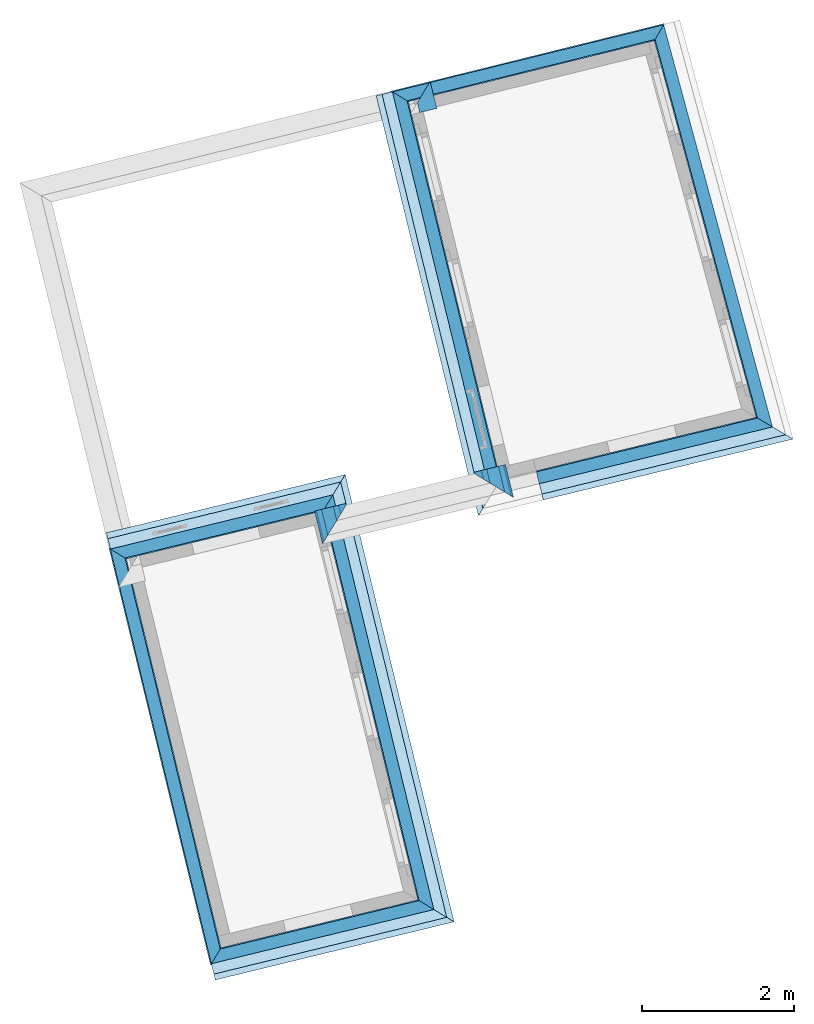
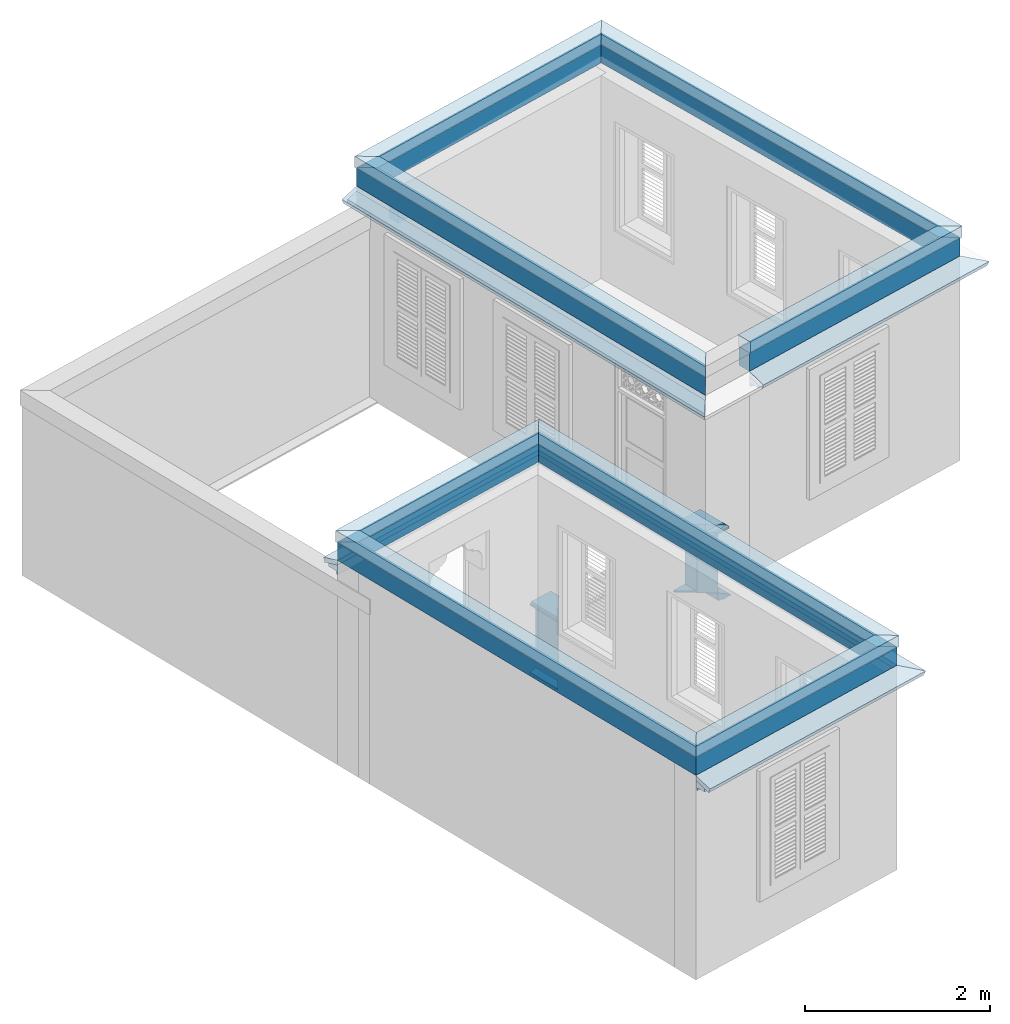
# One storey, part 6 of 7: 26 roofs, 7 walls.
"""IFC4 building model written with IfcOpenShell, lengths in metres."""

import ifcopenshell
import ifcopenshell.guid

model = None  # the IFC model being written
_history = None  # IfcOwnerHistory: only IFC2X3 demands one
_inside = {}  # id of a spatial element -> (the spatial element, [elements in it])
_under = {}  # id of a project, library or spatial element -> (it, [spatial elements below it])
_declared = {}  # id of a project -> (the project, [libraries it declares])
_typed = {}  # id of a type object -> (the type object, [elements of that type])
_made_of = {}  # id of a material, layer set ... -> (it, [elements and type objects made of it])


def new_model(schema):
    """Start an empty IFC model of exactly this schema.

    Asked for "IFC4X3", IfcOpenShell would pick the latest addendum, in which some entities
    have other attributes; the version numbers below select the first issue.
    IFC2X3 requires an IfcOwnerHistory on every rooted entity: one is made here for all.
    """
    global model, _history
    if schema == "IFC4X3":
        model = ifcopenshell.file(schema_version=(4, 3, 0, 0))
    else:
        model = ifcopenshell.file(schema=schema)
    _inside.clear()
    _under.clear()
    _declared.clear()
    _typed.clear()
    _made_of.clear()
    _history = None
    if model.schema == "IFC2X3":
        org = make("IfcOrganization", Name="unknown")
        user = make(
            "IfcPersonAndOrganization",
            ThePerson=make("IfcPerson", FamilyName="unknown"),
            TheOrganization=org,
        )
        app = make(
            "IfcApplication",
            ApplicationDeveloper=org,
            Version="unknown",
            ApplicationFullName="unknown",
            ApplicationIdentifier="unknown",
        )
        _history = make(
            "IfcOwnerHistory",
            OwningUser=user,
            OwningApplication=app,
            ChangeAction="ADDED",
            CreationDate=0,
        )
    return model


def make(cls, **values):
    """One entity of the class cls with the attributes given. An attribute that is None is left unset."""
    return model.create_entity(
        cls, **{name: value for name, value in values.items() if value is not None}
    )


def rooted(cls, **values):
    """An entity with a GlobalId (a new one), such as an element, a storey or a relation."""
    return make(cls, GlobalId=ifcopenshell.guid.new(), OwnerHistory=_history, **values)


def si_unit(unit_type, name, prefix=None):
    """IfcSIUnit, for example si_unit("LENGTHUNIT", "METRE", prefix="MILLI")."""
    return make("IfcSIUnit", UnitType=unit_type, Prefix=prefix, Name=name)


def assignment(units):
    """IfcUnitAssignment: the units of a project."""
    return None if units is None else make("IfcUnitAssignment", Units=units)


def point(xyz):
    """IfcCartesianPoint."""
    return None if xyz is None else make("IfcCartesianPoint", Coordinates=xyz)


def direction(xyz):
    """IfcDirection."""
    return None if xyz is None else make("IfcDirection", DirectionRatios=xyz)


def frame(location, z_axis=None, x_axis=None):
    """IfcAxis2Placement3D, a coordinate frame: its origin and axes. An axis left out is left unset."""
    return make(
        "IfcAxis2Placement3D",
        Location=point(location),
        Axis=direction(z_axis),
        RefDirection=direction(x_axis),
    )


def origin_with_axes():
    """The frame at (0, 0, 0) with the z axis (0, 0, 1) and the x axis (1, 0, 0) written out."""
    return frame((0.0, 0.0, 0.0), z_axis=(0.0, 0.0, 1.0), x_axis=(1.0, 0.0, 0.0))


def place(relative_to, where):
    """IfcLocalPlacement: puts the frame where relative to a parent placement (None: the world)."""
    return make(
        "IfcLocalPlacement", PlacementRelTo=relative_to, RelativePlacement=where
    )


def context(
    kind, dimensions, precision=None, world=None, true_north=None, identifier=None
):
    """IfcGeometricRepresentationContext, for example the 3D "Model" context."""
    return make(
        "IfcGeometricRepresentationContext",
        ContextIdentifier=identifier,
        ContextType=kind,
        CoordinateSpaceDimension=dimensions,
        Precision=precision,
        WorldCoordinateSystem=world,
        TrueNorth=true_north,
    )


def subcontext(parent, identifier, kind, view, scale=None):
    """IfcGeometricRepresentationSubContext, for example "Body" below "Model"."""
    return make(
        "IfcGeometricRepresentationSubContext",
        ContextIdentifier=identifier,
        ContextType=kind,
        ParentContext=parent,
        TargetScale=scale,
        TargetView=view,
    )


def project(units=None, contexts=None):
    """IfcProject with its units and contexts."""
    return rooted(
        "IfcProject",
        Name="project",
        RepresentationContexts=contexts,
        UnitsInContext=assignment(units),
    )


def spatial(cls, under=None, at=None, **own):
    """A site, building, storey or space (cls), placed at a placement, below another one or the project."""
    s = rooted(cls, ObjectPlacement=at, **own)
    if under is not None:
        _under.setdefault(under.id(), (under, []))[1].append(s)
    return s


def polyline(points):
    """IfcPolyline through the points."""
    return make("IfcPolyline", Points=[point(p) for p in points])


def outline(outer, holes=None, kind="AREA"):
    """IfcArbitraryClosedProfileDef: a profile drawn as a closed curve; with holes, ...WithVoids."""
    if holes is None:
        return make("IfcArbitraryClosedProfileDef", ProfileType=kind, OuterCurve=outer)
    return make(
        "IfcArbitraryProfileDefWithVoids",
        ProfileType=kind,
        OuterCurve=outer,
        InnerCurves=holes,
    )


def extrude(swept, where, along, depth):
    """IfcExtrudedAreaSolid: the profile swept, set in the frame where, extruded along a direction by depth."""
    return make(
        "IfcExtrudedAreaSolid",
        SweptArea=swept,
        Position=where,
        ExtrudedDirection=direction(along),
        Depth=depth,
    )


def clip(a, b, op="DIFFERENCE"):
    """IfcBooleanClippingResult: the solid a cut by the half space b."""
    return make(
        "IfcBooleanClippingResult", Operator=op, FirstOperand=a, SecondOperand=b
    )


def halfspace(plane, agree):
    """IfcHalfSpaceSolid: all space on one side of the plane z = 0 of the frame plane."""
    return make(
        "IfcHalfSpaceSolid",
        BaseSurface=make("IfcPlane", Position=plane),
        AgreementFlag=agree,
    )


def shape(context_of_items, identifier, shape_type, items):
    """IfcShapeRepresentation: the items that make up one representation, for example the "Body"."""
    return make(
        "IfcShapeRepresentation",
        ContextOfItems=context_of_items,
        RepresentationIdentifier=identifier,
        RepresentationType=shape_type,
        Items=items,
    )


def material_profile(
    of_material, cross_section, Name=None, Category=None, Priority=None
):
    """IfcMaterialProfile: a cross section and its material."""
    return make(
        "IfcMaterialProfile",
        Name=Name,
        Material=of_material,
        Profile=cross_section,
        Priority=Priority,
        Category=Category,
    )


def profile_set(profiles, Name=None, composite=None):
    """IfcMaterialProfileSet."""
    return make(
        "IfcMaterialProfileSet",
        Name=Name,
        MaterialProfiles=profiles,
        CompositeProfile=composite,
    )


def profile_usage(for_profile_set, cardinal=None, extent=None):
    """IfcMaterialProfileSetUsage: how a profile set lies along its element."""
    return make(
        "IfcMaterialProfileSetUsage",
        ForProfileSet=for_profile_set,
        CardinalPoint=cardinal,
        ReferenceExtent=extent,
    )


def made_of(thing, what):
    """Note that an element or type object is made of a material, layer set ...; save() writes the relation."""
    if what is not None:
        _made_of.setdefault(what.id(), (what, []))[1].append(thing)
    return thing


def type_object(cls, material=None, **own):
    """A type object (cls), such as IfcWallType, which elements share."""
    return made_of(rooted(cls, **own), material)


def element(
    cls,
    number,
    at=None,
    inside=None,
    cuts=None,
    type_object=None,
    material=None,
    context=None,
    identifier="Body",
    shape_type=None,
    held_by="IfcProductDefinitionShape",
    body=None,
    shapes=None,
    **own,
):
    """One element of the class cls, such as IfcWall. Its Tag is "e" and its number.

    at: its placement. inside: the storey or other place that contains it. cuts: it is an
    opening in that element (IfcRelVoidsElement). A single representation is given by context,
    identifier, shape_type and body (its items); several are given by shapes. held_by: the class
    of the entity that holds the representations. save() writes the other relations.
    """
    e = rooted(cls, Tag="e%d" % number, ObjectPlacement=at, **own)
    if body is not None:
        shapes = [shape(context, identifier, shape_type, body)]
    if shapes is not None:
        e.Representation = make(held_by, Representations=shapes)
    if inside is not None:
        _inside.setdefault(inside.id(), (inside, []))[1].append(e)
    if cuts is not None:
        rooted(
            "IfcRelVoidsElement", RelatingBuildingElement=cuts, RelatedOpeningElement=e
        )
    if type_object is not None:
        _typed.setdefault(type_object.id(), (type_object, []))[1].append(e)
    return made_of(e, material)


def aggregate(whole, parts):
    """IfcRelAggregates: a whole, such as a stair, and the parts it consists of."""
    return rooted("IfcRelAggregates", RelatingObject=whole, RelatedObjects=parts)


def save(model, path):
    """Write the relations noted so far, then the file.

    IfcRelAggregates (storeys below a building ...), IfcRelContainedInSpatialStructure (elements
    in a storey), IfcRelDefinesByType, IfcRelAssociatesMaterial and IfcRelDeclares: one each for
    every whole, place, type object, material and project.
    """
    for whole, parts in _under.values():
        aggregate(whole, parts)
    for where, things in _inside.values():
        rooted(
            "IfcRelContainedInSpatialStructure",
            RelatedElements=things,
            RelatingStructure=where,
        )
    for kind, things in _typed.values():
        rooted("IfcRelDefinesByType", RelatedObjects=things, RelatingType=kind)
    for what, things in _made_of.values():
        rooted("IfcRelAssociatesMaterial", RelatedObjects=things, RelatingMaterial=what)
    for by, libraries in _declared.values():
        rooted("IfcRelDeclares", RelatingContext=by, RelatedDefinitions=libraries)
    model.write(path)


model = new_model("IFC4")

# Units and contexts
model_context = context("Model", 3, world=origin_with_axes())
body_context = subcontext(model_context, "Body", "Model", "MODEL_VIEW")
ifc_project = project(units=[si_unit("PLANEANGLEUNIT", "RADIAN"), si_unit("MASSUNIT", "GRAM", prefix="KILO"), si_unit("FORCEUNIT", "NEWTON", prefix="KILO"), si_unit("LENGTHUNIT", "METRE"), si_unit("AREAUNIT", "SQUARE_METRE"), si_unit("VOLUMEUNIT", "CUBIC_METRE")], contexts=[model_context, model_context])

# Site, building, storey
site_placement = place(None, origin_with_axes())
site = spatial("IfcSite", under=ifc_project, at=site_placement, Name="Site plot-4", CompositionType="ELEMENT")
building_placement = place(None, origin_with_axes())
building = spatial("IfcBuilding", under=site, at=building_placement, Name="Building plot-4", CompositionType="ELEMENT")
storey_placement = place(None, frame((0.0, 0.0, 5.4), z_axis=(0.0, 0.0, 1.0), x_axis=(1.0, 0.0, 0.0)))
storey = spatial("IfcBuildingStorey", under=building, at=storey_placement, Name="plot-4 2", CompositionType="ELEMENT", Elevation=5.4)

# Walls
ifc_material_profile_1 = material_profile(None, outline(polyline([(0.265, 2.245), (0.265, 2.445), (0.035, 2.445), (0.035, 2.245), (0.265, 2.245)])))
ifc_profile_set_1 = profile_set([ifc_material_profile_1])
ifc_profile_usage_1 = profile_usage(ifc_profile_set_1)
wall_type_1 = type_object("IfcWallType", Name="parapet party_1", PredefinedType="PARAPET", material=ifc_profile_set_1)
wall_1_placement = place(storey_placement, frame((21.9928642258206, 21.4109044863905, 0.0), z_axis=(0.240250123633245, -0.970711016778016, 0.0), x_axis=(0.970711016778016, 0.240250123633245, 0.0)))
element("IfcWall", 1, at=wall_1_placement, inside=storey, type_object=wall_type_1, material=ifc_profile_usage_1, Name="parapet party_1", context=body_context, shape_type="Clipping", body=[
    clip(clip(extrude(outline(polyline([(0.265, 2.245), (0.265, 2.445), (0.035, 2.445), (0.035, 2.245), (0.265, 2.245)])), origin_with_axes(), (0.0, 0.0, 1.0), 2.1), halfspace(frame((0.0, 0.0, 1.1), z_axis=(-9.49410759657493e-16, 0.0, -1.0), x_axis=(0.0, 1.0, 0.0)), True)), halfspace(frame((0.0, 0.0, 1.0), z_axis=(-0.70710678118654, 0.0, -0.707106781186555), x_axis=(0.0, 1.0, 0.0)), False)),
])
ifc_material_profile_2 = material_profile(None, outline(polyline([(0.25, 0.0), (0.25, 0.795), (0.09, 0.795), (0.09, 0.02), (-0.08, 0.02), (-0.08, 0.0), (0.25, 0.0)])))
ifc_profile_set_2 = profile_set([ifc_material_profile_2])
ifc_profile_usage_2 = profile_usage(ifc_profile_set_2)
wall_type_2 = type_object("IfcWallType", Name="parapet internal_0", PredefinedType="PARAPET", material=ifc_profile_set_2)
wall_2_placement = place(storey_placement, frame((21.5022646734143, 14.1268234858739, 0.0), z_axis=(-0.236608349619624, 0.97160510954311, 0.0), x_axis=(-0.97160510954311, -0.236608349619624, 0.0)))
element("IfcWall", 2, at=wall_2_placement, inside=storey, type_object=wall_type_2, material=ifc_profile_usage_2, Name="parapet internal_0", context=body_context, shape_type="Clipping", body=[
    clip(clip(extrude(outline(polyline([(0.25, 0.0), (0.25, 0.795), (0.09, 0.795), (0.09, 0.02), (-0.08, 0.02), (-0.08, 0.0), (0.25, 0.0)])), origin_with_axes(), (0.0, 0.0, 1.0), 2.1), halfspace(frame((0.0, 0.0, 1.1), z_axis=(-7.27366154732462e-16, 0.0, -1.0), x_axis=(0.0, 1.0, 0.0)), True)), halfspace(frame((0.0, 0.0, 1.0), z_axis=(-0.707106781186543, 0.0, -0.707106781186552), x_axis=(0.0, 1.0, 0.0)), False)),
])
ifc_profile_usage_3 = profile_usage(ifc_profile_set_2)
wall_3_placement = place(storey_placement, frame((22.8455035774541, 16.6153051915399, 0.0), z_axis=(0.236608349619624, -0.97160510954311, 0.0), x_axis=(0.97160510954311, 0.236608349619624, 0.0)))
element("IfcWall", 3, at=wall_3_placement, inside=storey, type_object=wall_type_2, material=ifc_profile_usage_3, Name="parapet internal_0", context=body_context, shape_type="Clipping", body=[
    clip(clip(extrude(outline(polyline([(0.25, 0.0), (0.25, 0.795), (0.09, 0.795), (0.09, 0.02), (-0.08, 0.02), (-0.08, 0.0), (0.25, 0.0)])), origin_with_axes(), (0.0, 0.0, 1.0), 2.1), halfspace(frame((0.0, 0.0, 1.1), z_axis=(0.707106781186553, 0.0, -0.707106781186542), x_axis=(0.0, 1.0, 0.0)), True)), halfspace(frame((0.0, 0.0, 1.0), z_axis=(-7.27366154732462e-16, 0.0, -1.0), x_axis=(0.0, 1.0, 0.0)), False)),
])
ifc_material_profile_3 = material_profile(None, outline(polyline([(0.265, 0.795), (0.268, 0.807), (0.274, 0.816), (0.283, 0.822), (0.295, 0.825), (0.295, 0.84), (0.305, 0.84), (0.317, 0.842), (0.326, 0.849), (0.333, 0.858), (0.335, 0.87), (0.333, 0.882), (0.326, 0.891), (0.317, 0.898), (0.305, 0.9), (0.035, 0.9), (0.023, 0.898), (0.014, 0.891), (0.007, 0.882), (0.005, 0.87), (0.007, 0.858), (0.014, 0.849), (0.023, 0.842), (0.035, 0.84), (0.045, 0.84), (0.045, 0.825), (0.057, 0.822), (0.066, 0.816), (0.072, 0.807), (0.075, 0.795), (0.265, 0.795)])))
ifc_profile_set_3 = profile_set([ifc_material_profile_3])
ifc_profile_usage_4 = profile_usage(ifc_profile_set_3)
wall_type_3 = type_object("IfcWallType", Name="parapet internal_1", PredefinedType="PARAPET", material=ifc_profile_set_3)
wall_4_placement = place(storey_placement, frame((21.5022646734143, 14.1268234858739, 0.0), z_axis=(-0.236608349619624, 0.97160510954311, 0.0), x_axis=(-0.97160510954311, -0.236608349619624, 0.0)))
element("IfcWall", 4, at=wall_4_placement, inside=storey, type_object=wall_type_3, material=ifc_profile_usage_4, Name="parapet internal_1", context=body_context, shape_type="Clipping", body=[
    clip(clip(extrude(outline(polyline([(0.265, 0.795), (0.268, 0.807), (0.274, 0.816), (0.283, 0.822), (0.295, 0.825), (0.295, 0.84), (0.305, 0.84), (0.317, 0.842), (0.326, 0.849), (0.333, 0.858), (0.335, 0.87), (0.333, 0.882), (0.326, 0.891), (0.317, 0.898), (0.305, 0.9), (0.035, 0.9), (0.023, 0.898), (0.014, 0.891), (0.007, 0.882), (0.005, 0.87), (0.007, 0.858), (0.014, 0.849), (0.023, 0.842), (0.035, 0.84), (0.045, 0.84), (0.045, 0.825), (0.057, 0.822), (0.066, 0.816), (0.072, 0.807), (0.075, 0.795), (0.265, 0.795)])), origin_with_axes(), (0.0, 0.0, 1.0), 2.1), halfspace(frame((0.0, 0.0, 1.1), z_axis=(-7.27366154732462e-16, 0.0, -1.0), x_axis=(0.0, 1.0, 0.0)), True)), halfspace(frame((0.0, 0.0, 1.0), z_axis=(-0.707106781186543, 0.0, -0.707106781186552), x_axis=(0.0, 1.0, 0.0)), False)),
])
ifc_profile_usage_5 = profile_usage(ifc_profile_set_3)
wall_5_placement = place(storey_placement, frame((22.8455035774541, 16.6153051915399, 0.0), z_axis=(0.236608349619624, -0.97160510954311, 0.0), x_axis=(0.97160510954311, 0.236608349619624, 0.0)))
element("IfcWall", 5, at=wall_5_placement, inside=storey, type_object=wall_type_3, material=ifc_profile_usage_5, Name="parapet internal_1", context=body_context, shape_type="Clipping", body=[
    clip(clip(extrude(outline(polyline([(0.265, 0.795), (0.268, 0.807), (0.274, 0.816), (0.283, 0.822), (0.295, 0.825), (0.295, 0.84), (0.305, 0.84), (0.317, 0.842), (0.326, 0.849), (0.333, 0.858), (0.335, 0.87), (0.333, 0.882), (0.326, 0.891), (0.317, 0.898), (0.305, 0.9), (0.035, 0.9), (0.023, 0.898), (0.014, 0.891), (0.007, 0.882), (0.005, 0.87), (0.007, 0.858), (0.014, 0.849), (0.023, 0.842), (0.035, 0.84), (0.045, 0.84), (0.045, 0.825), (0.057, 0.822), (0.066, 0.816), (0.072, 0.807), (0.075, 0.795), (0.265, 0.795)])), origin_with_axes(), (0.0, 0.0, 1.0), 2.1), halfspace(frame((0.0, 0.0, 1.1), z_axis=(0.707106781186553, 0.0, -0.707106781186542), x_axis=(0.0, 1.0, 0.0)), True)), halfspace(frame((0.0, 0.0, 1.0), z_axis=(-7.27366154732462e-16, 0.0, -1.0), x_axis=(0.0, 1.0, 0.0)), False)),
])
ifc_material_profile_4 = material_profile(None, outline(polyline([(0.25, -0.1), (0.265, -0.1), (0.265, -0.085), (0.278, -0.084), (0.289, -0.081), (0.301, -0.074), (0.309, -0.065), (0.315, -0.055), (0.324, -0.044), (0.334, -0.038), (0.345, -0.035), (0.345, -0.015), (0.25, 0.0), (0.25, -0.1)])))
ifc_profile_set_4 = profile_set([ifc_material_profile_4])
ifc_profile_usage_6 = profile_usage(ifc_profile_set_4)
wall_type_4 = type_object("IfcWallType", Name="parapet internal_2", PredefinedType="PARAPET", material=ifc_profile_set_4)
wall_6_placement = place(storey_placement, frame((21.5022646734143, 14.1268234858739, 0.0), z_axis=(-0.236608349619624, 0.97160510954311, 0.0), x_axis=(-0.97160510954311, -0.236608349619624, 0.0)))
element("IfcWall", 6, at=wall_6_placement, inside=storey, type_object=wall_type_4, material=ifc_profile_usage_6, Name="parapet internal_2", context=body_context, shape_type="Clipping", body=[
    clip(clip(extrude(outline(polyline([(0.25, -0.1), (0.265, -0.1), (0.265, -0.085), (0.278, -0.084), (0.289, -0.081), (0.301, -0.074), (0.309, -0.065), (0.315, -0.055), (0.324, -0.044), (0.334, -0.038), (0.345, -0.035), (0.345, -0.015), (0.25, 0.0), (0.25, -0.1)])), origin_with_axes(), (0.0, 0.0, 1.0), 2.1), halfspace(frame((0.0, 0.0, 1.1), z_axis=(-7.27366154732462e-16, 0.0, -1.0), x_axis=(0.0, 1.0, 0.0)), True)), halfspace(frame((0.0, 0.0, 1.0), z_axis=(-0.707106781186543, 0.0, -0.707106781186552), x_axis=(0.0, 1.0, 0.0)), False)),
])
ifc_profile_usage_7 = profile_usage(ifc_profile_set_4)
wall_7_placement = place(storey_placement, frame((22.8455035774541, 16.6153051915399, 0.0), z_axis=(0.236608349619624, -0.97160510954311, 0.0), x_axis=(0.97160510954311, 0.236608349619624, 0.0)))
element("IfcWall", 7, at=wall_7_placement, inside=storey, type_object=wall_type_4, material=ifc_profile_usage_7, Name="parapet internal_2", context=body_context, shape_type="Clipping", body=[
    clip(clip(extrude(outline(polyline([(0.25, -0.1), (0.265, -0.1), (0.265, -0.085), (0.278, -0.084), (0.289, -0.081), (0.301, -0.074), (0.309, -0.065), (0.315, -0.055), (0.324, -0.044), (0.334, -0.038), (0.345, -0.035), (0.345, -0.015), (0.25, 0.0), (0.25, -0.1)])), origin_with_axes(), (0.0, 0.0, 1.0), 2.1), halfspace(frame((0.0, 0.0, 1.1), z_axis=(0.707106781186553, 0.0, -0.707106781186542), x_axis=(0.0, 1.0, 0.0)), True)), halfspace(frame((0.0, 0.0, 1.0), z_axis=(-7.27366154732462e-16, 0.0, -1.0), x_axis=(0.0, 1.0, 0.0)), False)),
])

# Roofs
ifc_material_profile_5 = material_profile(None, outline(polyline([(0.25, 0.0), (0.25, 0.245), (0.09, 0.245), (0.09, 0.0), (0.25, 0.0)])))
ifc_profile_set_5 = profile_set([ifc_material_profile_5])
ifc_profile_usage_8 = profile_usage(ifc_profile_set_5)
roof_type_1 = type_object("IfcRoofType", Name="roofline_0", PredefinedType="FREEFORM", material=ifc_profile_set_5)
roof_1_placement = place(storey_placement, frame((27.5899260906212, 16.63853477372, 2.7), z_axis=(-0.971605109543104, -0.236608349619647, 0.0), x_axis=(0.236608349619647, -0.971605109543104, 0.0)))
element("IfcRoof", 8, at=roof_1_placement, inside=storey, type_object=roof_type_1, material=ifc_profile_usage_8, Name="roofline_0", context=body_context, shape_type="Clipping", body=[
    clip(clip(extrude(outline(polyline([(0.25, 0.0), (0.25, 0.245), (0.09, 0.245), (0.09, 0.0), (0.25, 0.0)])), origin_with_axes(), (0.0, 0.0, 1.0), 4.89792210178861), halfspace(frame((0.0, 0.0, 3.8979221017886), z_axis=(-9.49410759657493e-16, 0.0, -1.0), x_axis=(0.0, 1.0, 0.0)), True)), halfspace(frame((0.0, 0.0, 1.0), z_axis=(-0.716016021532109, 0.0, -0.698083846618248), x_axis=(0.0, 1.0, 0.0)), False)),
])
ifc_profile_usage_9 = profile_usage(ifc_profile_set_5)
roof_2_placement = place(storey_placement, frame((25.0579083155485, 22.1692596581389, 2.7), z_axis=(0.261170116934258, -0.965292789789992, 0.0), x_axis=(0.965292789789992, 0.261170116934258, 0.0)))
element("IfcRoof", 9, at=roof_2_placement, inside=storey, type_object=roof_type_1, material=ifc_profile_usage_9, Name="roofline_0", context=body_context, shape_type="Clipping", body=[
    clip(clip(extrude(outline(polyline([(0.25, 0.0), (0.25, 0.245), (0.09, 0.245), (0.09, 0.0), (0.25, 0.0)])), origin_with_axes(), (0.0, 0.0, 1.0), 6.97469834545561), halfspace(frame((0.0, 0.0, 5.97469834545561), z_axis=(0.716016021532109, 0.0, -0.698083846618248), x_axis=(0.0, 1.0, 0.0)), True)), halfspace(frame((0.0, 0.0, 1.0), z_axis=(-0.699425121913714, 0.0, -0.714705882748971), x_axis=(0.0, 1.0, 0.0)), False)),
])
ifc_profile_usage_10 = profile_usage(ifc_profile_set_5)
roof_3_placement = place(storey_placement, frame((21.2624033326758, 20.1999433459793, 2.7), z_axis=(0.970711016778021, 0.240250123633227, 0.0), x_axis=(-0.240250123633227, 0.970711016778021, 0.0)))
element("IfcRoof", 10, at=roof_3_placement, inside=storey, type_object=roof_type_1, material=ifc_profile_usage_10, Name="roofline_0", context=body_context, shape_type="Clipping", body=[
    clip(clip(extrude(outline(polyline([(0.25, 0.0), (0.25, 0.245), (0.09, 0.245), (0.09, 0.0), (0.25, 0.0)])), origin_with_axes(), (0.0, 0.0, 1.0), 5.17907598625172), halfspace(frame((0.0, 0.0, 4.17907598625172), z_axis=(0.699425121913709, 0.0, -0.714705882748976), x_axis=(0.0, 1.0, 0.0)), True)), halfspace(frame((0.0, 0.0, 1.0), z_axis=(-0.705779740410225, 0.0, -0.708431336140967), x_axis=(0.0, 1.0, 0.0)), False)),
])
ifc_profile_usage_11 = profile_usage(ifc_profile_set_5)
roof_4_placement = place(storey_placement, frame((23.6435786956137, 14.6482830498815, 2.7), z_axis=(-0.236608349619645, 0.971605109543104, 0.0), x_axis=(-0.971605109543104, -0.236608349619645, 0.0)))
element("IfcRoof", 11, at=roof_4_placement, inside=storey, type_object=roof_type_1, material=ifc_profile_usage_11, Name="roofline_0", context=body_context, shape_type="Clipping", body=[
    clip(clip(extrude(outline(polyline([(0.25, 0.0), (0.25, 0.245), (0.09, 0.245), (0.09, 0.0), (0.25, 0.0)])), origin_with_axes(), (0.0, 0.0, 1.0), 6.96117739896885), halfspace(frame((0.0, 0.0, 5.96117739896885), z_axis=(0.705779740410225, 0.0, -0.708431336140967), x_axis=(0.0, 1.0, 0.0)), True)), halfspace(frame((0.0, 0.0, 1.0), z_axis=(-0.707106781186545, 0.0, -0.70710678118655), x_axis=(0.0, 1.0, 0.0)), False)),
])
ifc_material_profile_6 = material_profile(None, outline(polyline([(0.265, 0.245), (0.265, 0.395), (0.075, 0.395), (0.075, 0.245), (0.265, 0.245)])))
ifc_profile_set_6 = profile_set([ifc_material_profile_6])
ifc_profile_usage_12 = profile_usage(ifc_profile_set_6)
roof_type_2 = type_object("IfcRoofType", Name="roofline_1", PredefinedType="FREEFORM", material=ifc_profile_set_6)
roof_5_placement = place(storey_placement, frame((27.5899260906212, 16.63853477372, 2.7), z_axis=(-0.971605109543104, -0.236608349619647, 0.0), x_axis=(0.236608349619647, -0.971605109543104, 0.0)))
element("IfcRoof", 12, at=roof_5_placement, inside=storey, type_object=roof_type_2, material=ifc_profile_usage_12, Name="roofline_1", context=body_context, shape_type="Clipping", body=[
    clip(clip(extrude(outline(polyline([(0.265, 0.245), (0.265, 0.395), (0.075, 0.395), (0.075, 0.245), (0.265, 0.245)])), origin_with_axes(), (0.0, 0.0, 1.0), 4.89792210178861), halfspace(frame((0.0, 0.0, 3.8979221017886), z_axis=(-9.49410759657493e-16, 0.0, -1.0), x_axis=(0.0, 1.0, 0.0)), True)), halfspace(frame((0.0, 0.0, 1.0), z_axis=(-0.716016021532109, 0.0, -0.698083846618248), x_axis=(0.0, 1.0, 0.0)), False)),
])
ifc_profile_usage_13 = profile_usage(ifc_profile_set_6)
roof_6_placement = place(storey_placement, frame((25.0579083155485, 22.1692596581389, 2.7), z_axis=(0.261170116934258, -0.965292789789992, 0.0), x_axis=(0.965292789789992, 0.261170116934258, 0.0)))
element("IfcRoof", 13, at=roof_6_placement, inside=storey, type_object=roof_type_2, material=ifc_profile_usage_13, Name="roofline_1", context=body_context, shape_type="Clipping", body=[
    clip(clip(extrude(outline(polyline([(0.265, 0.245), (0.265, 0.395), (0.075, 0.395), (0.075, 0.245), (0.265, 0.245)])), origin_with_axes(), (0.0, 0.0, 1.0), 6.97469834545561), halfspace(frame((0.0, 0.0, 5.97469834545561), z_axis=(0.716016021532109, 0.0, -0.698083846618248), x_axis=(0.0, 1.0, 0.0)), True)), halfspace(frame((0.0, 0.0, 1.0), z_axis=(-0.699425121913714, 0.0, -0.714705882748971), x_axis=(0.0, 1.0, 0.0)), False)),
])
ifc_profile_usage_14 = profile_usage(ifc_profile_set_6)
roof_7_placement = place(storey_placement, frame((21.2624033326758, 20.1999433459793, 2.7), z_axis=(0.970711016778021, 0.240250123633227, 0.0), x_axis=(-0.240250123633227, 0.970711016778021, 0.0)))
element("IfcRoof", 14, at=roof_7_placement, inside=storey, type_object=roof_type_2, material=ifc_profile_usage_14, Name="roofline_1", context=body_context, shape_type="Clipping", body=[
    clip(clip(extrude(outline(polyline([(0.265, 0.245), (0.265, 0.395), (0.075, 0.395), (0.075, 0.245), (0.265, 0.245)])), origin_with_axes(), (0.0, 0.0, 1.0), 5.17907598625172), halfspace(frame((0.0, 0.0, 4.17907598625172), z_axis=(0.699425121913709, 0.0, -0.714705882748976), x_axis=(0.0, 1.0, 0.0)), True)), halfspace(frame((0.0, 0.0, 1.0), z_axis=(-0.705779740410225, 0.0, -0.708431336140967), x_axis=(0.0, 1.0, 0.0)), False)),
])
ifc_profile_usage_15 = profile_usage(ifc_profile_set_6)
roof_8_placement = place(storey_placement, frame((23.6435786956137, 14.6482830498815, 2.7), z_axis=(-0.236608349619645, 0.971605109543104, 0.0), x_axis=(-0.971605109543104, -0.236608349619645, 0.0)))
element("IfcRoof", 15, at=roof_8_placement, inside=storey, type_object=roof_type_2, material=ifc_profile_usage_15, Name="roofline_1", context=body_context, shape_type="Clipping", body=[
    clip(clip(extrude(outline(polyline([(0.265, 0.245), (0.265, 0.395), (0.075, 0.395), (0.075, 0.245), (0.265, 0.245)])), origin_with_axes(), (0.0, 0.0, 1.0), 6.96117739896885), halfspace(frame((0.0, 0.0, 5.96117739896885), z_axis=(0.705779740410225, 0.0, -0.708431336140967), x_axis=(0.0, 1.0, 0.0)), True)), halfspace(frame((0.0, 0.0, 1.0), z_axis=(-0.707106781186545, 0.0, -0.70710678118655), x_axis=(0.0, 1.0, 0.0)), False)),
])
ifc_material_profile_7 = material_profile(None, outline(polyline([(0.25, 0.0), (0.25, 0.245), (0.09, 0.245), (0.09, 0.0), (0.25, 0.0)])))
ifc_profile_set_7 = profile_set([ifc_material_profile_7])
ifc_profile_usage_16 = profile_usage(ifc_profile_set_7)
roof_type_3 = type_object("IfcRoofType", Name="roofline_0", PredefinedType="FREEFORM", material=ifc_profile_set_7)
roof_9_placement = place(storey_placement, frame((17.5541068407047, 14.194580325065, 2.7), z_axis=(0.971605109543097, 0.236608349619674, 0.0), x_axis=(-0.236608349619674, 0.971605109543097, 0.0)))
element("IfcRoof", 16, at=roof_9_placement, inside=storey, type_object=roof_type_3, material=ifc_profile_usage_16, Name="roofline_0", context=body_context, shape_type="Clipping", body=[
    clip(clip(extrude(outline(polyline([(0.25, 0.0), (0.25, 0.245), (0.09, 0.245), (0.09, 0.0), (0.25, 0.0)])), origin_with_axes(), (0.0, 0.0, 1.0), 4.51001848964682), halfspace(frame((0.0, 0.0, 3.51001848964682), z_axis=(0.707106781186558, 0.0, -0.707106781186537), x_axis=(0.0, 1.0, 0.0)), True)), halfspace(frame((0.0, 0.0, 1.0), z_axis=(-0.707106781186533, 0.0, -0.707106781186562), x_axis=(0.0, 1.0, 0.0)), False)),
])
ifc_profile_usage_17 = profile_usage(ifc_profile_set_7)
roof_10_placement = place(storey_placement, frame((19.9713328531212, 8.49491187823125, 2.7), z_axis=(-0.236608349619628, 0.971605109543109, 0.0), x_axis=(-0.971605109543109, -0.236608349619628, 0.0)))
element("IfcRoof", 17, at=roof_10_placement, inside=storey, type_object=roof_type_3, material=ifc_profile_usage_17, Name="roofline_0", context=body_context, shape_type="Clipping", body=[
    clip(clip(extrude(outline(polyline([(0.25, 0.0), (0.25, 0.245), (0.09, 0.245), (0.09, 0.0), (0.25, 0.0)])), origin_with_axes(), (0.0, 0.0, 1.0), 7.10976284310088), halfspace(frame((0.0, 0.0, 6.10976284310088), z_axis=(0.707106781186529, 0.0, -0.707106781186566), x_axis=(0.0, 1.0, 0.0)), True)), halfspace(frame((0.0, 0.0, 1.0), z_axis=(-0.707106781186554, 0.0, -0.707106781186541), x_axis=(0.0, 1.0, 0.0)), False)),
])
ifc_profile_usage_18 = profile_usage(ifc_profile_set_7)
roof_11_placement = place(storey_placement, frame((23.1450764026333, 10.2970166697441, 2.7), z_axis=(-0.971605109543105, -0.236608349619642, 0.0), x_axis=(0.236608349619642, -0.971605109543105, 0.0)))
element("IfcRoof", 18, at=roof_11_placement, inside=storey, type_object=roof_type_3, material=ifc_profile_usage_18, Name="roofline_0", context=body_context, shape_type="Clipping", body=[
    clip(clip(extrude(outline(polyline([(0.25, 0.0), (0.25, 0.245), (0.09, 0.245), (0.09, 0.0), (0.25, 0.0)])), origin_with_axes(), (0.0, 0.0, 1.0), 4.5100184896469), halfspace(frame((0.0, 0.0, 3.5100184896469), z_axis=(0.707106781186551, 0.0, -0.707106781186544), x_axis=(0.0, 1.0, 0.0)), True)), halfspace(frame((0.0, 0.0, 1.0), z_axis=(-0.707106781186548, 0.0, -0.707106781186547), x_axis=(0.0, 1.0, 0.0)), False)),
])
ifc_profile_usage_19 = profile_usage(ifc_profile_set_7)
roof_12_placement = place(storey_placement, frame((20.7278503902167, 15.996685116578, 2.7), z_axis=(0.236608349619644, -0.971605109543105, 0.0), x_axis=(0.971605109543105, 0.236608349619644, 0.0)))
element("IfcRoof", 19, at=roof_12_placement, inside=storey, type_object=roof_type_3, material=ifc_profile_usage_19, Name="roofline_0", context=body_context, shape_type="Clipping", body=[
    clip(clip(extrude(outline(polyline([(0.25, 0.0), (0.25, 0.245), (0.09, 0.245), (0.09, 0.0), (0.25, 0.0)])), origin_with_axes(), (0.0, 0.0, 1.0), 7.10976284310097), halfspace(frame((0.0, 0.0, 6.10976284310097), z_axis=(0.707106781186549, 0.0, -0.707106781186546), x_axis=(0.0, 1.0, 0.0)), True)), halfspace(frame((0.0, 0.0, 1.0), z_axis=(-0.707106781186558, 0.0, -0.707106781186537), x_axis=(0.0, 1.0, 0.0)), False)),
])
ifc_material_profile_8 = material_profile(None, outline(polyline([(0.265, 0.245), (0.265, 0.395), (0.075, 0.395), (0.075, 0.245), (0.265, 0.245)])))
ifc_profile_set_8 = profile_set([ifc_material_profile_8])
ifc_profile_usage_20 = profile_usage(ifc_profile_set_8)
roof_type_4 = type_object("IfcRoofType", Name="roofline_1", PredefinedType="FREEFORM", material=ifc_profile_set_8)
roof_13_placement = place(storey_placement, frame((17.5541068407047, 14.194580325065, 2.7), z_axis=(0.971605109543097, 0.236608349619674, 0.0), x_axis=(-0.236608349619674, 0.971605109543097, 0.0)))
element("IfcRoof", 20, at=roof_13_placement, inside=storey, type_object=roof_type_4, material=ifc_profile_usage_20, Name="roofline_1", context=body_context, shape_type="Clipping", body=[
    clip(clip(extrude(outline(polyline([(0.265, 0.245), (0.265, 0.395), (0.075, 0.395), (0.075, 0.245), (0.265, 0.245)])), origin_with_axes(), (0.0, 0.0, 1.0), 4.51001848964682), halfspace(frame((0.0, 0.0, 3.51001848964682), z_axis=(0.707106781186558, 0.0, -0.707106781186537), x_axis=(0.0, 1.0, 0.0)), True)), halfspace(frame((0.0, 0.0, 1.0), z_axis=(-0.707106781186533, 0.0, -0.707106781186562), x_axis=(0.0, 1.0, 0.0)), False)),
])
ifc_profile_usage_21 = profile_usage(ifc_profile_set_8)
roof_14_placement = place(storey_placement, frame((19.9713328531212, 8.49491187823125, 2.7), z_axis=(-0.236608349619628, 0.971605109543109, 0.0), x_axis=(-0.971605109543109, -0.236608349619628, 0.0)))
element("IfcRoof", 21, at=roof_14_placement, inside=storey, type_object=roof_type_4, material=ifc_profile_usage_21, Name="roofline_1", context=body_context, shape_type="Clipping", body=[
    clip(clip(extrude(outline(polyline([(0.265, 0.245), (0.265, 0.395), (0.075, 0.395), (0.075, 0.245), (0.265, 0.245)])), origin_with_axes(), (0.0, 0.0, 1.0), 7.10976284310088), halfspace(frame((0.0, 0.0, 6.10976284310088), z_axis=(0.707106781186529, 0.0, -0.707106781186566), x_axis=(0.0, 1.0, 0.0)), True)), halfspace(frame((0.0, 0.0, 1.0), z_axis=(-0.707106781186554, 0.0, -0.707106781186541), x_axis=(0.0, 1.0, 0.0)), False)),
])
ifc_profile_usage_22 = profile_usage(ifc_profile_set_8)
roof_15_placement = place(storey_placement, frame((23.1450764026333, 10.2970166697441, 2.7), z_axis=(-0.971605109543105, -0.236608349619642, 0.0), x_axis=(0.236608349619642, -0.971605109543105, 0.0)))
element("IfcRoof", 22, at=roof_15_placement, inside=storey, type_object=roof_type_4, material=ifc_profile_usage_22, Name="roofline_1", context=body_context, shape_type="Clipping", body=[
    clip(clip(extrude(outline(polyline([(0.265, 0.245), (0.265, 0.395), (0.075, 0.395), (0.075, 0.245), (0.265, 0.245)])), origin_with_axes(), (0.0, 0.0, 1.0), 4.5100184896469), halfspace(frame((0.0, 0.0, 3.5100184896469), z_axis=(0.707106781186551, 0.0, -0.707106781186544), x_axis=(0.0, 1.0, 0.0)), True)), halfspace(frame((0.0, 0.0, 1.0), z_axis=(-0.707106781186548, 0.0, -0.707106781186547), x_axis=(0.0, 1.0, 0.0)), False)),
])
ifc_profile_usage_23 = profile_usage(ifc_profile_set_8)
roof_16_placement = place(storey_placement, frame((20.7278503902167, 15.996685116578, 2.7), z_axis=(0.236608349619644, -0.971605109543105, 0.0), x_axis=(0.971605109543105, 0.236608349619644, 0.0)))
element("IfcRoof", 23, at=roof_16_placement, inside=storey, type_object=roof_type_4, material=ifc_profile_usage_23, Name="roofline_1", context=body_context, shape_type="Clipping", body=[
    clip(clip(extrude(outline(polyline([(0.265, 0.245), (0.265, 0.395), (0.075, 0.395), (0.075, 0.245), (0.265, 0.245)])), origin_with_axes(), (0.0, 0.0, 1.0), 7.10976284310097), halfspace(frame((0.0, 0.0, 6.10976284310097), z_axis=(0.707106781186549, 0.0, -0.707106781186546), x_axis=(0.0, 1.0, 0.0)), True)), halfspace(frame((0.0, 0.0, 1.0), z_axis=(-0.707106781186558, 0.0, -0.707106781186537), x_axis=(0.0, 1.0, 0.0)), False)),
])
ifc_material_profile_9 = material_profile(None, outline(polyline([(0.25, -0.19), (0.275, -0.19), (0.275, -0.15), (0.39, -0.15), (0.39, -0.107509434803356), (0.25, -0.0629639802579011), (0.25, -0.19)])))
ifc_profile_set_9 = profile_set([ifc_material_profile_9])
ifc_profile_usage_24 = profile_usage(ifc_profile_set_9)
roof_type_5 = type_object("IfcRoofType", Name="eaves_0", PredefinedType="FREEFORM", material=ifc_profile_set_9)
roof_17_placement = place(storey_placement, frame((23.6435786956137, 14.6482830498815, 2.7), z_axis=(-0.236608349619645, 0.971605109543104, 0.0), x_axis=(-0.971605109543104, -0.236608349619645, 0.0)))
element("IfcRoof", 24, at=roof_17_placement, inside=storey, type_object=roof_type_5, material=ifc_profile_usage_24, Name="eaves_0", context=body_context, shape_type="Clipping", body=[
    clip(clip(extrude(outline(polyline([(0.25, -0.19), (0.275, -0.19), (0.275, -0.15), (0.39, -0.15), (0.39, -0.107509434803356), (0.25, -0.0629639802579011), (0.25, -0.19)])), origin_with_axes(), (0.0, 0.0, 1.0), 7.21117739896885), halfspace(frame((0.0, 0.0, 6.21117739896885), z_axis=(1.49307989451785e-15, 0.0, -1.0), x_axis=(0.0, 1.0, 0.0)), True)), halfspace(frame((0.0, 0.0, 1.0), z_axis=(-0.707106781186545, 0.0, -0.70710678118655), x_axis=(0.0, 1.0, 0.0)), False)),
])
ifc_profile_usage_25 = profile_usage(ifc_profile_set_9)
roof_18_placement = place(storey_placement, frame((27.5899260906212, 16.63853477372, 2.7), z_axis=(-0.971605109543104, -0.236608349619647, 0.0), x_axis=(0.236608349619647, -0.971605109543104, 0.0)))
element("IfcRoof", 25, at=roof_18_placement, inside=storey, type_object=roof_type_5, material=ifc_profile_usage_25, Name="eaves_0", context=body_context, shape_type="Clipping", body=[
    clip(clip(extrude(outline(polyline([(0.25, -0.19), (0.275, -0.19), (0.275, -0.15), (0.39, -0.15), (0.39, -0.107509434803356), (0.25, -0.0629639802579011), (0.25, -0.19)])), origin_with_axes(), (0.0, 0.0, 1.0), 4.89792210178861), halfspace(frame((0.0, 0.0, 3.8979221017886), z_axis=(-9.49410759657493e-16, 0.0, -1.0), x_axis=(0.0, 1.0, 0.0)), True)), halfspace(frame((0.0, 0.0, 1.0), z_axis=(-0.716016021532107, 0.0, -0.698083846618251), x_axis=(0.0, 1.0, 0.0)), False)),
])
ifc_material_profile_10 = material_profile(None, outline(polyline([(0.25, -0.0629639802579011), (0.451807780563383, -0.127175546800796), (0.47, -0.07), (0.25, 0.0), (0.25, -0.0629639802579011)])))
ifc_profile_set_10 = profile_set([ifc_material_profile_10])
ifc_profile_usage_26 = profile_usage(ifc_profile_set_10)
roof_type_6 = type_object("IfcRoofType", Name="eaves_1", PredefinedType="FREEFORM", material=ifc_profile_set_10)
roof_19_placement = place(storey_placement, frame((23.6435786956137, 14.6482830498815, 2.7), z_axis=(-0.236608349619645, 0.971605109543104, 0.0), x_axis=(-0.971605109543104, -0.236608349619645, 0.0)))
element("IfcRoof", 26, at=roof_19_placement, inside=storey, type_object=roof_type_6, material=ifc_profile_usage_26, Name="eaves_1", context=body_context, shape_type="Clipping", body=[
    clip(clip(extrude(outline(polyline([(0.25, -0.0629639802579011), (0.451807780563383, -0.127175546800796), (0.47, -0.07), (0.25, 0.0), (0.25, -0.0629639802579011)])), origin_with_axes(), (0.0, 0.0, 1.0), 7.21117739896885), halfspace(frame((0.0, 0.0, 6.21117739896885), z_axis=(1.49307989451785e-15, 0.0, -1.0), x_axis=(0.0, 1.0, 0.0)), True)), halfspace(frame((0.0, 0.0, 1.0), z_axis=(-0.707106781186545, 0.0, -0.70710678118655), x_axis=(0.0, 1.0, 0.0)), False)),
])
ifc_profile_usage_27 = profile_usage(ifc_profile_set_10)
roof_20_placement = place(storey_placement, frame((27.5899260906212, 16.63853477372, 2.7), z_axis=(-0.971605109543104, -0.236608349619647, 0.0), x_axis=(0.236608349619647, -0.971605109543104, 0.0)))
element("IfcRoof", 27, at=roof_20_placement, inside=storey, type_object=roof_type_6, material=ifc_profile_usage_27, Name="eaves_1", context=body_context, shape_type="Clipping", body=[
    clip(clip(extrude(outline(polyline([(0.25, -0.0629639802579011), (0.451807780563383, -0.127175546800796), (0.47, -0.07), (0.25, 0.0), (0.25, -0.0629639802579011)])), origin_with_axes(), (0.0, 0.0, 1.0), 4.89792210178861), halfspace(frame((0.0, 0.0, 3.8979221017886), z_axis=(-9.49410759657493e-16, 0.0, -1.0), x_axis=(0.0, 1.0, 0.0)), True)), halfspace(frame((0.0, 0.0, 1.0), z_axis=(-0.716016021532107, 0.0, -0.698083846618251), x_axis=(0.0, 1.0, 0.0)), False)),
])
ifc_material_profile_11 = material_profile(None, outline(polyline([(0.25, -0.19), (0.275, -0.19), (0.275, -0.15), (0.39, -0.15), (0.39, -0.107509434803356), (0.25, -0.0629639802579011), (0.25, -0.19)])))
ifc_profile_set_11 = profile_set([ifc_material_profile_11])
ifc_profile_usage_28 = profile_usage(ifc_profile_set_11)
roof_type_7 = type_object("IfcRoofType", Name="eaves_0", PredefinedType="FREEFORM", material=ifc_profile_set_11)
roof_21_placement = place(storey_placement, frame((23.1450764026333, 10.2970166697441, 2.7), z_axis=(-0.971605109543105, -0.236608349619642, 0.0), x_axis=(0.236608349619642, -0.971605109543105, 0.0)))
element("IfcRoof", 28, at=roof_21_placement, inside=storey, type_object=roof_type_7, material=ifc_profile_usage_28, Name="eaves_0", context=body_context, shape_type="Clipping", body=[
    clip(clip(extrude(outline(polyline([(0.25, -0.19), (0.275, -0.19), (0.275, -0.15), (0.39, -0.15), (0.39, -0.107509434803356), (0.25, -0.0629639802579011), (0.25, -0.19)])), origin_with_axes(), (0.0, 0.0, 1.0), 4.7600184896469), halfspace(frame((0.0, 0.0, 3.7600184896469), z_axis=(1.49307989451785e-15, 0.0, -1.0), x_axis=(0.0, 1.0, 0.0)), True)), halfspace(frame((0.0, 0.0, 1.0), z_axis=(-0.707106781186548, 0.0, -0.707106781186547), x_axis=(0.0, 1.0, 0.0)), False)),
])
ifc_profile_usage_29 = profile_usage(ifc_profile_set_11)
roof_22_placement = place(storey_placement, frame((20.7278503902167, 15.996685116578, 2.7), z_axis=(0.236608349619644, -0.971605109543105, 0.0), x_axis=(0.971605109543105, 0.236608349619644, 0.0)))
element("IfcRoof", 29, at=roof_22_placement, inside=storey, type_object=roof_type_7, material=ifc_profile_usage_29, Name="eaves_0", context=body_context, shape_type="Clipping", body=[
    clip(clip(extrude(outline(polyline([(0.25, -0.19), (0.275, -0.19), (0.275, -0.15), (0.39, -0.15), (0.39, -0.107509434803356), (0.25, -0.0629639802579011), (0.25, -0.19)])), origin_with_axes(), (0.0, 0.0, 1.0), 7.10976284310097), halfspace(frame((0.0, 0.0, 6.10976284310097), z_axis=(0.707106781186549, 0.0, -0.707106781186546), x_axis=(0.0, 1.0, 0.0)), True)), halfspace(frame((0.0, 0.0, 1.0), z_axis=(-0.707106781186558, 0.0, -0.707106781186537), x_axis=(0.0, 1.0, 0.0)), False)),
])
ifc_profile_usage_30 = profile_usage(ifc_profile_set_11)
roof_23_placement = place(storey_placement, frame((17.3112055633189, 14.1354282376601, 2.7), z_axis=(0.971605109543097, 0.236608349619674, 0.0), x_axis=(-0.236608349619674, 0.971605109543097, 0.0)))
element("IfcRoof", 30, at=roof_23_placement, inside=storey, type_object=roof_type_7, material=ifc_profile_usage_30, Name="eaves_0", context=body_context, shape_type="Clipping", body=[
    clip(clip(extrude(outline(polyline([(0.25, -0.19), (0.275, -0.19), (0.275, -0.15), (0.39, -0.15), (0.39, -0.107509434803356), (0.25, -0.0629639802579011), (0.25, -0.19)])), origin_with_axes(), (0.0, 0.0, 1.0), 4.76001848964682), halfspace(frame((0.0, 0.0, 3.76001848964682), z_axis=(0.707106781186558, 0.0, -0.707106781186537), x_axis=(0.0, 1.0, 0.0)), True)), halfspace(frame((0.0, 0.0, 1.0), z_axis=(3.82856869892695e-16, 0.0, -1.0), x_axis=(0.0, 1.0, 0.0)), False)),
])
ifc_material_profile_12 = material_profile(None, outline(polyline([(0.25, -0.0629639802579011), (0.451807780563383, -0.127175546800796), (0.47, -0.07), (0.25, 0.0), (0.25, -0.0629639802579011)])))
ifc_profile_set_12 = profile_set([ifc_material_profile_12])
ifc_profile_usage_31 = profile_usage(ifc_profile_set_12)
roof_type_8 = type_object("IfcRoofType", Name="eaves_1", PredefinedType="FREEFORM", material=ifc_profile_set_12)
roof_24_placement = place(storey_placement, frame((23.1450764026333, 10.2970166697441, 2.7), z_axis=(-0.971605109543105, -0.236608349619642, 0.0), x_axis=(0.236608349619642, -0.971605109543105, 0.0)))
element("IfcRoof", 31, at=roof_24_placement, inside=storey, type_object=roof_type_8, material=ifc_profile_usage_31, Name="eaves_1", context=body_context, shape_type="Clipping", body=[
    clip(clip(extrude(outline(polyline([(0.25, -0.0629639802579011), (0.451807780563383, -0.127175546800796), (0.47, -0.07), (0.25, 0.0), (0.25, -0.0629639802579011)])), origin_with_axes(), (0.0, 0.0, 1.0), 4.7600184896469), halfspace(frame((0.0, 0.0, 3.7600184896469), z_axis=(1.49307989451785e-15, 0.0, -1.0), x_axis=(0.0, 1.0, 0.0)), True)), halfspace(frame((0.0, 0.0, 1.0), z_axis=(-0.707106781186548, 0.0, -0.707106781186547), x_axis=(0.0, 1.0, 0.0)), False)),
])
ifc_profile_usage_32 = profile_usage(ifc_profile_set_12)
roof_25_placement = place(storey_placement, frame((20.7278503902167, 15.996685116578, 2.7), z_axis=(0.236608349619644, -0.971605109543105, 0.0), x_axis=(0.971605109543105, 0.236608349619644, 0.0)))
element("IfcRoof", 32, at=roof_25_placement, inside=storey, type_object=roof_type_8, material=ifc_profile_usage_32, Name="eaves_1", context=body_context, shape_type="Clipping", body=[
    clip(clip(extrude(outline(polyline([(0.25, -0.0629639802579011), (0.451807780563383, -0.127175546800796), (0.47, -0.07), (0.25, 0.0), (0.25, -0.0629639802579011)])), origin_with_axes(), (0.0, 0.0, 1.0), 7.10976284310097), halfspace(frame((0.0, 0.0, 6.10976284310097), z_axis=(0.707106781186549, 0.0, -0.707106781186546), x_axis=(0.0, 1.0, 0.0)), True)), halfspace(frame((0.0, 0.0, 1.0), z_axis=(-0.707106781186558, 0.0, -0.707106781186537), x_axis=(0.0, 1.0, 0.0)), False)),
])
ifc_profile_usage_33 = profile_usage(ifc_profile_set_12)
roof_26_placement = place(storey_placement, frame((17.3112055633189, 14.1354282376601, 2.7), z_axis=(0.971605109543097, 0.236608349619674, 0.0), x_axis=(-0.236608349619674, 0.971605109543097, 0.0)))
element("IfcRoof", 33, at=roof_26_placement, inside=storey, type_object=roof_type_8, material=ifc_profile_usage_33, Name="eaves_1", context=body_context, shape_type="Clipping", body=[
    clip(clip(extrude(outline(polyline([(0.25, -0.0629639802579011), (0.451807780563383, -0.127175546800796), (0.47, -0.07), (0.25, 0.0), (0.25, -0.0629639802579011)])), origin_with_axes(), (0.0, 0.0, 1.0), 4.76001848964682), halfspace(frame((0.0, 0.0, 3.76001848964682), z_axis=(0.707106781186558, 0.0, -0.707106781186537), x_axis=(0.0, 1.0, 0.0)), True)), halfspace(frame((0.0, 0.0, 1.0), z_axis=(3.82856869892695e-16, 0.0, -1.0), x_axis=(0.0, 1.0, 0.0)), False)),
])

save(model, "model.ifc")
